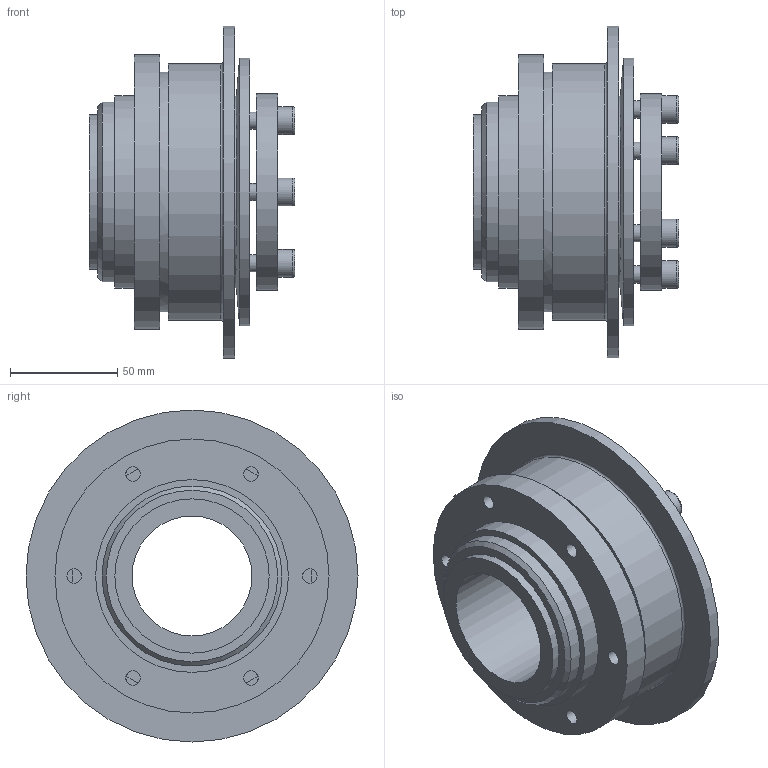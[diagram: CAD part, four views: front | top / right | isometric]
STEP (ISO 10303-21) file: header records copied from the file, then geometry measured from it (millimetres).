
FILE_DESCRIPTION(/* description */ ('STEP AP214'),/* implementation_level */ '2;1');
FILE_NAME(/* name */ 'C:\Diequa Files\DieQua Coupling\TH\STP\TH.500.88.F.#.stp',/* time_stamp */ '2019-02-13T16:13:47-06:00',/* author */ ('DiequaCAD'),/* organization */ (''),/* preprocessor_version */ 'ST-DEVELOPER v17.2',/* originating_system */ 'Autodesk Inventor 2019',/* authorisation */ ' ');
FILE_SCHEMA (('AUTOMOTIVE_DESIGN { 1 0 10303 214 3 1 1 }'));
Length unit declared in the file: millimetre
Products named in the file (1): TH.500.88.F.#
Bounding box: 96 x 155 x 155 mm (x, y, z)
Volume: 640860.8 mm3; surface area: 106573 mm2
Topology: 1 solids, 1 shells, 104 faces, 247 edges, 160 vertices
Faces by surface type: plane 65, cylinder 30, torus 7, cone 2
Full cylindrical faces by diameter (mm): 6.8 x6, 8 x6, 13 x6, 56 x2, 72 x1, 84 x1, 90 x2, 92 x1, 112 x1, 120 x1, 125 x1, 128 x1, 155 x1
Entity records: 3128 total; most frequent: DIRECTION 564, CARTESIAN_POINT 512, ORIENTED_EDGE 494, EDGE_CURVE 247, AXIS2_PLACEMENT_3D 212, VERTEX_POINT 160, EDGE_LOOP 145, LINE 140
